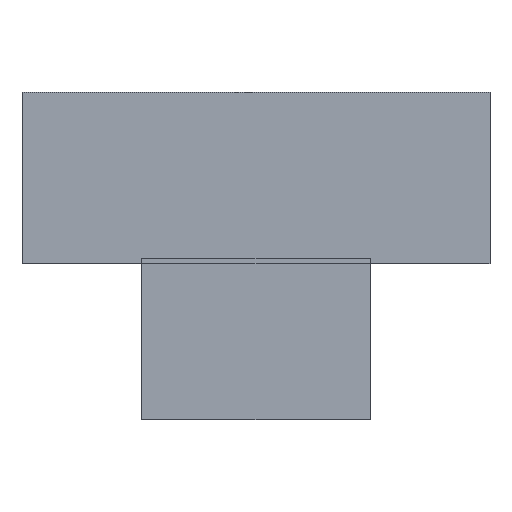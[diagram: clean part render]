
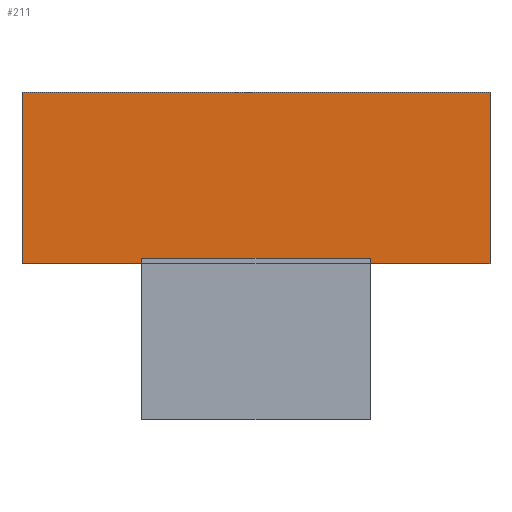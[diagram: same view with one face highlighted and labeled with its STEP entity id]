
A CAD part, top view. The second image highlights one B-rep face of the part: STEP entity #211.
In plain terms, the highlighted planar face has unit normal (0, 0, 1).
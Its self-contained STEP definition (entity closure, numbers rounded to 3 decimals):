
#24 = VERTEX_POINT('',#25);
#25 = CARTESIAN_POINT('',(10.5,-39.8,-1.9));
#32 = PLANE('',#33);
#33 = AXIS2_PLACEMENT_3D('',#34,#35,#36);
#34 = CARTESIAN_POINT('',(10.5,-39.8,-6.2));
#35 = DIRECTION('',(1.,0.,-0.));
#36 = DIRECTION('',(0.,0.,1.));
#44 = PLANE('',#45);
#45 = AXIS2_PLACEMENT_3D('',#46,#47,#48);
#46 = CARTESIAN_POINT('',(10.5,-39.8,-6.2));
#47 = DIRECTION('',(-0.,1.,0.));
#48 = DIRECTION('',(0.,0.,1.));
#85 = VERTEX_POINT('',#86);
#86 = CARTESIAN_POINT('',(10.5,-36.5,-1.9));
#100 = PLANE('',#101);
#101 = AXIS2_PLACEMENT_3D('',#102,#103,#104);
#102 = CARTESIAN_POINT('',(10.5,-36.5,-6.2));
#103 = DIRECTION('',(-0.,1.,0.));
#104 = DIRECTION('',(0.,0.,1.));
#112 = EDGE_CURVE('',#24,#85,#113,.T.);
#113 = SURFACE_CURVE('',#114,(#118,#125),.PCURVE_S1.);
#114 = LINE('',#115,#116);
#115 = CARTESIAN_POINT('',(10.5,-39.8,-1.9));
#116 = VECTOR('',#117,1.);
#117 = DIRECTION('',(-0.,1.,0.));
#118 = PCURVE('',#32,#119);
#119 = DEFINITIONAL_REPRESENTATION('',(#120),#124);
#120 = LINE('',#121,#122);
#121 = CARTESIAN_POINT('',(4.3,0.));
#122 = VECTOR('',#123,1.);
#123 = DIRECTION('',(0.,-1.));
#124 = ( GEOMETRIC_REPRESENTATION_CONTEXT(2) 
PARAMETRIC_REPRESENTATION_CONTEXT() REPRESENTATION_CONTEXT('2D SPACE',''
  ) );
#125 = PCURVE('',#126,#131);
#126 = PLANE('',#127);
#127 = AXIS2_PLACEMENT_3D('',#128,#129,#130);
#128 = CARTESIAN_POINT('',(10.5,-39.8,-1.9));
#129 = DIRECTION('',(0.,0.,1.));
#130 = DIRECTION('',(1.,0.,-0.));
#131 = DEFINITIONAL_REPRESENTATION('',(#132),#136);
#132 = LINE('',#133,#134);
#133 = CARTESIAN_POINT('',(0.,0.));
#134 = VECTOR('',#135,1.);
#135 = DIRECTION('',(0.,1.));
#136 = ( GEOMETRIC_REPRESENTATION_CONTEXT(2) 
PARAMETRIC_REPRESENTATION_CONTEXT() REPRESENTATION_CONTEXT('2D SPACE',''
  ) );
#165 = EDGE_CURVE('',#24,#166,#168,.T.);
#166 = VERTEX_POINT('',#167);
#167 = CARTESIAN_POINT('',(12.8,-39.8,-1.9));
#168 = SURFACE_CURVE('',#169,(#173,#180),.PCURVE_S1.);
#169 = LINE('',#170,#171);
#170 = CARTESIAN_POINT('',(10.5,-39.8,-1.9));
#171 = VECTOR('',#172,1.);
#172 = DIRECTION('',(1.,0.,-0.));
#173 = PCURVE('',#44,#174);
#174 = DEFINITIONAL_REPRESENTATION('',(#175),#179);
#175 = LINE('',#176,#177);
#176 = CARTESIAN_POINT('',(4.3,0.));
#177 = VECTOR('',#178,1.);
#178 = DIRECTION('',(0.,1.));
#179 = ( GEOMETRIC_REPRESENTATION_CONTEXT(2) 
PARAMETRIC_REPRESENTATION_CONTEXT() REPRESENTATION_CONTEXT('2D SPACE',''
  ) );
#180 = PCURVE('',#126,#181);
#181 = DEFINITIONAL_REPRESENTATION('',(#182),#186);
#182 = LINE('',#183,#184);
#183 = CARTESIAN_POINT('',(0.,0.));
#184 = VECTOR('',#185,1.);
#185 = DIRECTION('',(1.,0.));
#186 = ( GEOMETRIC_REPRESENTATION_CONTEXT(2) 
PARAMETRIC_REPRESENTATION_CONTEXT() REPRESENTATION_CONTEXT('2D SPACE',''
  ) );
#211 = ADVANCED_FACE('',(#212),#126,.T.);
#212 = FACE_BOUND('',#213,.T.);
#213 = EDGE_LOOP('',(#214,#237,#238,#239,#267,#290,#313,#341));
#214 = ORIENTED_EDGE('',*,*,#215,.F.);
#215 = EDGE_CURVE('',#85,#216,#218,.T.);
#216 = VERTEX_POINT('',#217);
#217 = CARTESIAN_POINT('',(19.5,-36.5,-1.9));
#218 = SURFACE_CURVE('',#219,(#223,#230),.PCURVE_S1.);
#219 = LINE('',#220,#221);
#220 = CARTESIAN_POINT('',(10.5,-36.5,-1.9));
#221 = VECTOR('',#222,1.);
#222 = DIRECTION('',(1.,0.,-0.));
#223 = PCURVE('',#126,#224);
#224 = DEFINITIONAL_REPRESENTATION('',(#225),#229);
#225 = LINE('',#226,#227);
#226 = CARTESIAN_POINT('',(0.,3.3));
#227 = VECTOR('',#228,1.);
#228 = DIRECTION('',(1.,0.));
#229 = ( GEOMETRIC_REPRESENTATION_CONTEXT(2) 
PARAMETRIC_REPRESENTATION_CONTEXT() REPRESENTATION_CONTEXT('2D SPACE',''
  ) );
#230 = PCURVE('',#100,#231);
#231 = DEFINITIONAL_REPRESENTATION('',(#232),#236);
#232 = LINE('',#233,#234);
#233 = CARTESIAN_POINT('',(4.3,0.));
#234 = VECTOR('',#235,1.);
#235 = DIRECTION('',(0.,1.));
#236 = ( GEOMETRIC_REPRESENTATION_CONTEXT(2) 
PARAMETRIC_REPRESENTATION_CONTEXT() REPRESENTATION_CONTEXT('2D SPACE',''
  ) );
#237 = ORIENTED_EDGE('',*,*,#112,.F.);
#238 = ORIENTED_EDGE('',*,*,#165,.T.);
#239 = ORIENTED_EDGE('',*,*,#240,.T.);
#240 = EDGE_CURVE('',#166,#241,#243,.T.);
#241 = VERTEX_POINT('',#242);
#242 = CARTESIAN_POINT('',(12.8,-39.7,-1.9));
#243 = SURFACE_CURVE('',#244,(#248,#255),.PCURVE_S1.);
#244 = LINE('',#245,#246);
#245 = CARTESIAN_POINT('',(12.8,-42.8,-1.9));
#246 = VECTOR('',#247,1.);
#247 = DIRECTION('',(-0.,1.,0.));
#248 = PCURVE('',#126,#249);
#249 = DEFINITIONAL_REPRESENTATION('',(#250),#254);
#250 = LINE('',#251,#252);
#251 = CARTESIAN_POINT('',(2.3,-3.));
#252 = VECTOR('',#253,1.);
#253 = DIRECTION('',(0.,1.));
#254 = ( GEOMETRIC_REPRESENTATION_CONTEXT(2) 
PARAMETRIC_REPRESENTATION_CONTEXT() REPRESENTATION_CONTEXT('2D SPACE',''
  ) );
#255 = PCURVE('',#256,#261);
#256 = PLANE('',#257);
#257 = AXIS2_PLACEMENT_3D('',#258,#259,#260);
#258 = CARTESIAN_POINT('',(10.5,-39.8,-1.9));
#259 = DIRECTION('',(0.,0.,1.));
#260 = DIRECTION('',(1.,0.,-0.));
#261 = DEFINITIONAL_REPRESENTATION('',(#262),#266);
#262 = LINE('',#263,#264);
#263 = CARTESIAN_POINT('',(2.3,-3.));
#264 = VECTOR('',#265,1.);
#265 = DIRECTION('',(0.,1.));
#266 = ( GEOMETRIC_REPRESENTATION_CONTEXT(2) 
PARAMETRIC_REPRESENTATION_CONTEXT() REPRESENTATION_CONTEXT('2D SPACE',''
  ) );
#267 = ORIENTED_EDGE('',*,*,#268,.T.);
#268 = EDGE_CURVE('',#241,#269,#271,.T.);
#269 = VERTEX_POINT('',#270);
#270 = CARTESIAN_POINT('',(17.2,-39.7,-1.9));
#271 = SURFACE_CURVE('',#272,(#276,#283),.PCURVE_S1.);
#272 = LINE('',#273,#274);
#273 = CARTESIAN_POINT('',(12.8,-39.7,-1.9));
#274 = VECTOR('',#275,1.);
#275 = DIRECTION('',(1.,0.,-0.));
#276 = PCURVE('',#126,#277);
#277 = DEFINITIONAL_REPRESENTATION('',(#278),#282);
#278 = LINE('',#279,#280);
#279 = CARTESIAN_POINT('',(2.3,0.1));
#280 = VECTOR('',#281,1.);
#281 = DIRECTION('',(1.,0.));
#282 = ( GEOMETRIC_REPRESENTATION_CONTEXT(2) 
PARAMETRIC_REPRESENTATION_CONTEXT() REPRESENTATION_CONTEXT('2D SPACE',''
  ) );
#283 = PCURVE('',#256,#284);
#284 = DEFINITIONAL_REPRESENTATION('',(#285),#289);
#285 = LINE('',#286,#287);
#286 = CARTESIAN_POINT('',(2.3,0.1));
#287 = VECTOR('',#288,1.);
#288 = DIRECTION('',(1.,0.));
#289 = ( GEOMETRIC_REPRESENTATION_CONTEXT(2) 
PARAMETRIC_REPRESENTATION_CONTEXT() REPRESENTATION_CONTEXT('2D SPACE',''
  ) );
#290 = ORIENTED_EDGE('',*,*,#291,.F.);
#291 = EDGE_CURVE('',#292,#269,#294,.T.);
#292 = VERTEX_POINT('',#293);
#293 = CARTESIAN_POINT('',(17.2,-39.8,-1.9));
#294 = SURFACE_CURVE('',#295,(#299,#306),.PCURVE_S1.);
#295 = LINE('',#296,#297);
#296 = CARTESIAN_POINT('',(17.2,-42.8,-1.9));
#297 = VECTOR('',#298,1.);
#298 = DIRECTION('',(-0.,1.,0.));
#299 = PCURVE('',#126,#300);
#300 = DEFINITIONAL_REPRESENTATION('',(#301),#305);
#301 = LINE('',#302,#303);
#302 = CARTESIAN_POINT('',(6.7,-3.));
#303 = VECTOR('',#304,1.);
#304 = DIRECTION('',(0.,1.));
#305 = ( GEOMETRIC_REPRESENTATION_CONTEXT(2) 
PARAMETRIC_REPRESENTATION_CONTEXT() REPRESENTATION_CONTEXT('2D SPACE',''
  ) );
#306 = PCURVE('',#256,#307);
#307 = DEFINITIONAL_REPRESENTATION('',(#308),#312);
#308 = LINE('',#309,#310);
#309 = CARTESIAN_POINT('',(6.7,-3.));
#310 = VECTOR('',#311,1.);
#311 = DIRECTION('',(0.,1.));
#312 = ( GEOMETRIC_REPRESENTATION_CONTEXT(2) 
PARAMETRIC_REPRESENTATION_CONTEXT() REPRESENTATION_CONTEXT('2D SPACE',''
  ) );
#313 = ORIENTED_EDGE('',*,*,#314,.T.);
#314 = EDGE_CURVE('',#292,#315,#317,.T.);
#315 = VERTEX_POINT('',#316);
#316 = CARTESIAN_POINT('',(19.5,-39.8,-1.9));
#317 = SURFACE_CURVE('',#318,(#322,#329),.PCURVE_S1.);
#318 = LINE('',#319,#320);
#319 = CARTESIAN_POINT('',(10.5,-39.8,-1.9));
#320 = VECTOR('',#321,1.);
#321 = DIRECTION('',(1.,0.,-0.));
#322 = PCURVE('',#126,#323);
#323 = DEFINITIONAL_REPRESENTATION('',(#324),#328);
#324 = LINE('',#325,#326);
#325 = CARTESIAN_POINT('',(0.,0.));
#326 = VECTOR('',#327,1.);
#327 = DIRECTION('',(1.,0.));
#328 = ( GEOMETRIC_REPRESENTATION_CONTEXT(2) 
PARAMETRIC_REPRESENTATION_CONTEXT() REPRESENTATION_CONTEXT('2D SPACE',''
  ) );
#329 = PCURVE('',#330,#335);
#330 = PLANE('',#331);
#331 = AXIS2_PLACEMENT_3D('',#332,#333,#334);
#332 = CARTESIAN_POINT('',(10.5,-39.8,-6.2));
#333 = DIRECTION('',(-0.,1.,0.));
#334 = DIRECTION('',(0.,0.,1.));
#335 = DEFINITIONAL_REPRESENTATION('',(#336),#340);
#336 = LINE('',#337,#338);
#337 = CARTESIAN_POINT('',(4.3,0.));
#338 = VECTOR('',#339,1.);
#339 = DIRECTION('',(0.,1.));
#340 = ( GEOMETRIC_REPRESENTATION_CONTEXT(2) 
PARAMETRIC_REPRESENTATION_CONTEXT() REPRESENTATION_CONTEXT('2D SPACE',''
  ) );
#341 = ORIENTED_EDGE('',*,*,#342,.T.);
#342 = EDGE_CURVE('',#315,#216,#343,.T.);
#343 = SURFACE_CURVE('',#344,(#348,#355),.PCURVE_S1.);
#344 = LINE('',#345,#346);
#345 = CARTESIAN_POINT('',(19.5,-39.8,-1.9));
#346 = VECTOR('',#347,1.);
#347 = DIRECTION('',(-0.,1.,0.));
#348 = PCURVE('',#126,#349);
#349 = DEFINITIONAL_REPRESENTATION('',(#350),#354);
#350 = LINE('',#351,#352);
#351 = CARTESIAN_POINT('',(9.,0.));
#352 = VECTOR('',#353,1.);
#353 = DIRECTION('',(0.,1.));
#354 = ( GEOMETRIC_REPRESENTATION_CONTEXT(2) 
PARAMETRIC_REPRESENTATION_CONTEXT() REPRESENTATION_CONTEXT('2D SPACE',''
  ) );
#355 = PCURVE('',#356,#361);
#356 = PLANE('',#357);
#357 = AXIS2_PLACEMENT_3D('',#358,#359,#360);
#358 = CARTESIAN_POINT('',(19.5,-39.8,-6.2));
#359 = DIRECTION('',(1.,0.,-0.));
#360 = DIRECTION('',(0.,0.,1.));
#361 = DEFINITIONAL_REPRESENTATION('',(#362),#366);
#362 = LINE('',#363,#364);
#363 = CARTESIAN_POINT('',(4.3,0.));
#364 = VECTOR('',#365,1.);
#365 = DIRECTION('',(0.,-1.));
#366 = ( GEOMETRIC_REPRESENTATION_CONTEXT(2) 
PARAMETRIC_REPRESENTATION_CONTEXT() REPRESENTATION_CONTEXT('2D SPACE',''
  ) );
